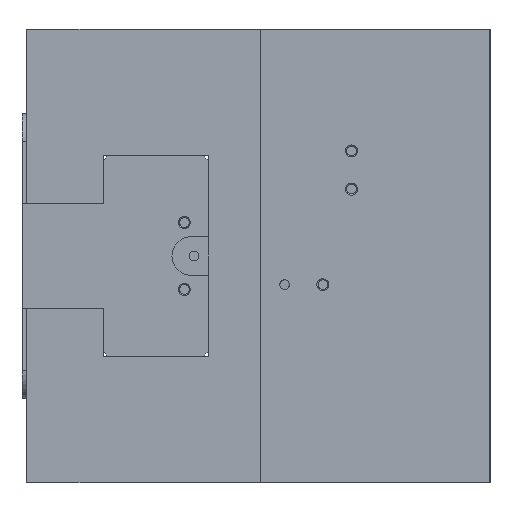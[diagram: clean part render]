
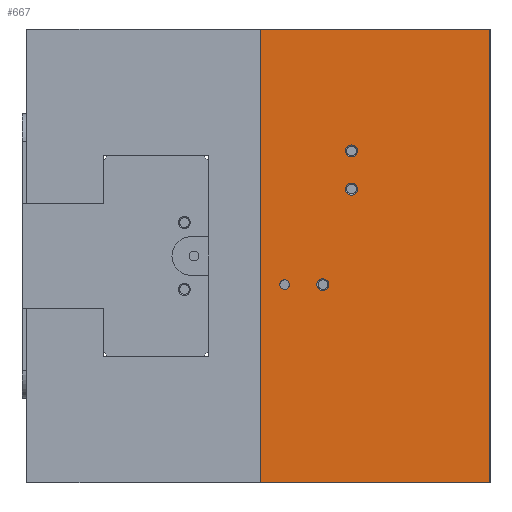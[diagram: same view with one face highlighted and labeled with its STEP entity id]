
A CAD part, left-side view. The second image highlights one B-rep face of the part: STEP entity #667.
In plain terms, the highlighted planar face has unit normal (-1, 0, 0).
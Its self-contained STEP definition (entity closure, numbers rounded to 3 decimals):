
#667 = ADVANCED_FACE( '', ( #1524, #1525, #1526, #1527, #1528 ), #1529, .F. );
#1524 = FACE_BOUND( '', #2596, .T. );
#1525 = FACE_BOUND( '', #2597, .T. );
#1526 = FACE_OUTER_BOUND( '', #2598, .T. );
#1527 = FACE_BOUND( '', #2599, .T. );
#1528 = FACE_BOUND( '', #2600, .T. );
#1529 = PLANE( '', #2601 );
#2596 = EDGE_LOOP( '', ( #4223 ) );
#2597 = EDGE_LOOP( '', ( #4224 ) );
#2598 = EDGE_LOOP( '', ( #4225, #4226, #4227, #4228 ) );
#2599 = EDGE_LOOP( '', ( #4229 ) );
#2600 = EDGE_LOOP( '', ( #4230 ) );
#2601 = AXIS2_PLACEMENT_3D( '', #4231, #4232, #4233 );
#4223 = ORIENTED_EDGE( '', *, *, #5845, .T. );
#4224 = ORIENTED_EDGE( '', *, *, #5827, .T. );
#4225 = ORIENTED_EDGE( '', *, *, #5882, .T. );
#4226 = ORIENTED_EDGE( '', *, *, #5635, .F. );
#4227 = ORIENTED_EDGE( '', *, *, #5883, .F. );
#4228 = ORIENTED_EDGE( '', *, *, #5884, .T. );
#4229 = ORIENTED_EDGE( '', *, *, #5732, .T. );
#4230 = ORIENTED_EDGE( '', *, *, #5885, .T. );
#4231 = CARTESIAN_POINT( '', ( -80., 48., 47.5 ) );
#4232 = DIRECTION( '', ( 1., 0., 0. ) );
#4233 = DIRECTION( '', ( 0., 0., -1. ) );
#5635 = EDGE_CURVE( '', #6662, #6657, #6664, .T. );
#5732 = EDGE_CURVE( '', #6812, #6812, #6813, .T. );
#5827 = EDGE_CURVE( '', #6957, #6957, #6958, .T. );
#5845 = EDGE_CURVE( '', #6982, #6982, #6983, .T. );
#5882 = EDGE_CURVE( '', #7037, #6657, #7038, .T. );
#5883 = EDGE_CURVE( '', #7039, #6662, #7040, .T. );
#5884 = EDGE_CURVE( '', #7039, #7037, #7041, .T. );
#5885 = EDGE_CURVE( '', #7042, #7042, #7043, .T. );
#6657 = VERTEX_POINT( '', #8300 );
#6662 = VERTEX_POINT( '', #8307 );
#6664 = LINE( '', #8310, #8311 );
#6812 = VERTEX_POINT( '', #8719 );
#6813 = CIRCLE( '', #8720, 1.007 );
#6957 = VERTEX_POINT( '', #8907 );
#6958 = CIRCLE( '', #8908, 1.25 );
#6982 = VERTEX_POINT( '', #8939 );
#6983 = CIRCLE( '', #8940, 1.25 );
#7037 = VERTEX_POINT( '', #9002 );
#7038 = LINE( '', #9003, #9004 );
#7039 = VERTEX_POINT( '', #9005 );
#7040 = LINE( '', #9006, #9007 );
#7041 = LINE( '', #9008, #9009 );
#7042 = VERTEX_POINT( '', #9010 );
#7043 = CIRCLE( '', #9011, 1.25 );
#8300 = CARTESIAN_POINT( '', ( -80., 0., -47.5 ) );
#8307 = CARTESIAN_POINT( '', ( -80., 0., 47.5 ) );
#8310 = CARTESIAN_POINT( '', ( -80., 0., 47.5 ) );
#8311 = VECTOR( '', #10139, 1000. );
#8719 = CARTESIAN_POINT( '', ( -80., 43., -7.007 ) );
#8720 = AXIS2_PLACEMENT_3D( '', #10264, #10265, #10266 );
#8907 = CARTESIAN_POINT( '', ( -80., 35., -7.25 ) );
#8908 = AXIS2_PLACEMENT_3D( '', #10379, #10380, #10381 );
#8939 = CARTESIAN_POINT( '', ( -80., 29., 12.75 ) );
#8940 = AXIS2_PLACEMENT_3D( '', #10398, #10399, #10400 );
#9002 = CARTESIAN_POINT( '', ( -80., 48., -47.5 ) );
#9003 = CARTESIAN_POINT( '', ( -80., 48., -47.5 ) );
#9004 = VECTOR( '', #10451, 1000. );
#9005 = CARTESIAN_POINT( '', ( -80., 48., 47.5 ) );
#9006 = CARTESIAN_POINT( '', ( -80., 48., 47.5 ) );
#9007 = VECTOR( '', #10452, 1000. );
#9008 = CARTESIAN_POINT( '', ( -80., 48., 47.5 ) );
#9009 = VECTOR( '', #10453, 1000. );
#9010 = CARTESIAN_POINT( '', ( -80., 29., 20.75 ) );
#9011 = AXIS2_PLACEMENT_3D( '', #10454, #10455, #10456 );
#10139 = DIRECTION( '', ( 0., 0., -1. ) );
#10264 = CARTESIAN_POINT( '', ( -80., 43., -6. ) );
#10265 = DIRECTION( '', ( 1., 0., 0. ) );
#10266 = DIRECTION( '', ( 0., 0., -1. ) );
#10379 = CARTESIAN_POINT( '', ( -80., 35., -6. ) );
#10380 = DIRECTION( '', ( 1., 0., 0. ) );
#10381 = DIRECTION( '', ( 0., 0., -1. ) );
#10398 = CARTESIAN_POINT( '', ( -80., 29., 14. ) );
#10399 = DIRECTION( '', ( 1., 0., 0. ) );
#10400 = DIRECTION( '', ( 0., 0., -1. ) );
#10451 = DIRECTION( '', ( 0., -1., 0. ) );
#10452 = DIRECTION( '', ( 0., -1., 0. ) );
#10453 = DIRECTION( '', ( 0., 0., -1. ) );
#10454 = CARTESIAN_POINT( '', ( -80., 29., 22. ) );
#10455 = DIRECTION( '', ( 1., 0., 0. ) );
#10456 = DIRECTION( '', ( 0., 0., -1. ) );
